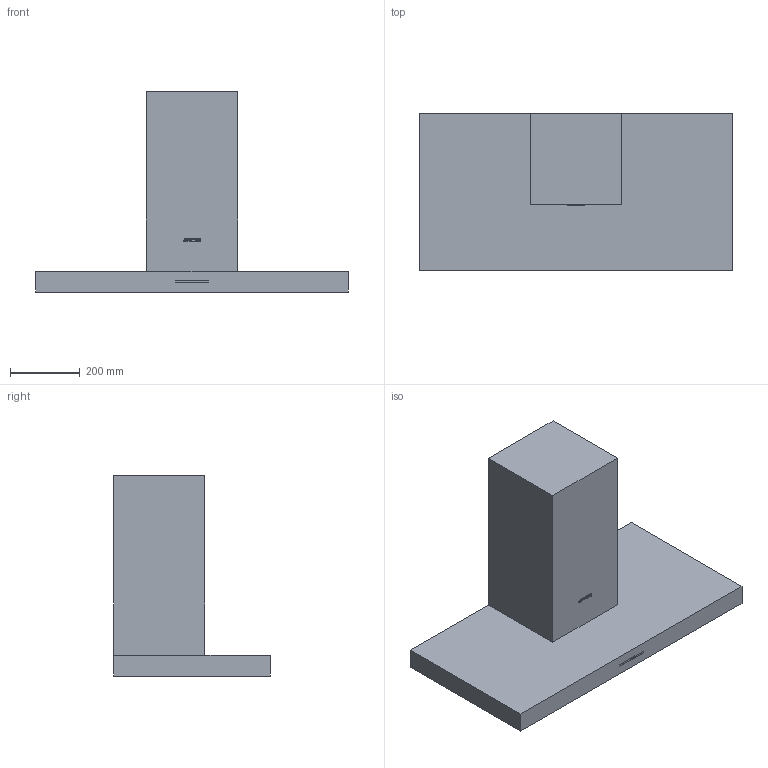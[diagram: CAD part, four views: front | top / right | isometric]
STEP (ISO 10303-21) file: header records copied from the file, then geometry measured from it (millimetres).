
FILE_DESCRIPTION(/* description */ (''),/* implementation_level */ '2;1');
FILE_NAME(/* name */ 'cappa kbt900.stp',/* time_stamp */ '2021-01-13T12:38:47+01:00',/* author */ (''),/* organization */ (''),/* preprocessor_version */ 'ST-DEVELOPER v16',/* originating_system */ 'SIEMENS PLM Software NX 11.0',/* authorisation */ '');
FILE_SCHEMA (('AUTOMOTIVE_DESIGN { 1 0 10303 214 3 1 1 1 }'));
Length unit declared in the file: millimetre
Products named in the file (1): Mart7188C4A4v5do
Bounding box: 898 x 450.5 x 576.6 mm (x, y, z)
Volume: 60913133.7 mm3; surface area: 2315925.4 mm2
Topology: 18 solids, 18 shells, 655 faces, 1596 edges, 974 vertices
Faces by surface type: plane 361, cylinder 234, sphere 24, torus 18, extrusion 12, bspline 6
Full cylindrical faces by diameter (mm): 4.113 x6
Entity records: 19313 total; most frequent: CARTESIAN_POINT 3838, DIRECTION 3166, ORIENTED_EDGE 3132, EDGE_CURVE 1566, VECTOR 1110, LINE 1098, AXIS2_PLACEMENT_3D 1028, VERTEX_POINT 974
